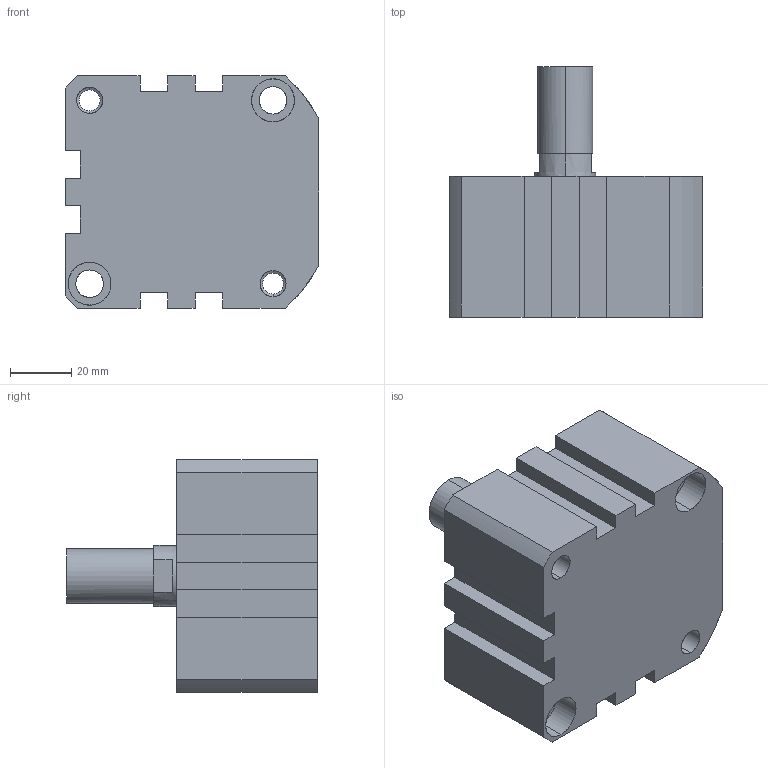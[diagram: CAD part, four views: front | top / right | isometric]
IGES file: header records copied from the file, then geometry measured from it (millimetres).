
Start section: SolidWorks IGES file using analytic representation for surfaces
Global section: file name: C:\Users\Toshiba\Desktop\XC#M2-63-10.IGS; native system: SolidWorks 2014; preprocessor: SolidWorks 2014; author: Toshiba; date: 160523.164637; units: millimetre
Bounding box: 83 x 82 x 76 mm (x, y, z)
Surface area: 37607.4 mm2 (no closed solid volume)
Topology: 0 solids, 0 shells, 114 faces, 1915 edges, 1911 vertices
Faces by surface type: revolution 64, bspline 50
